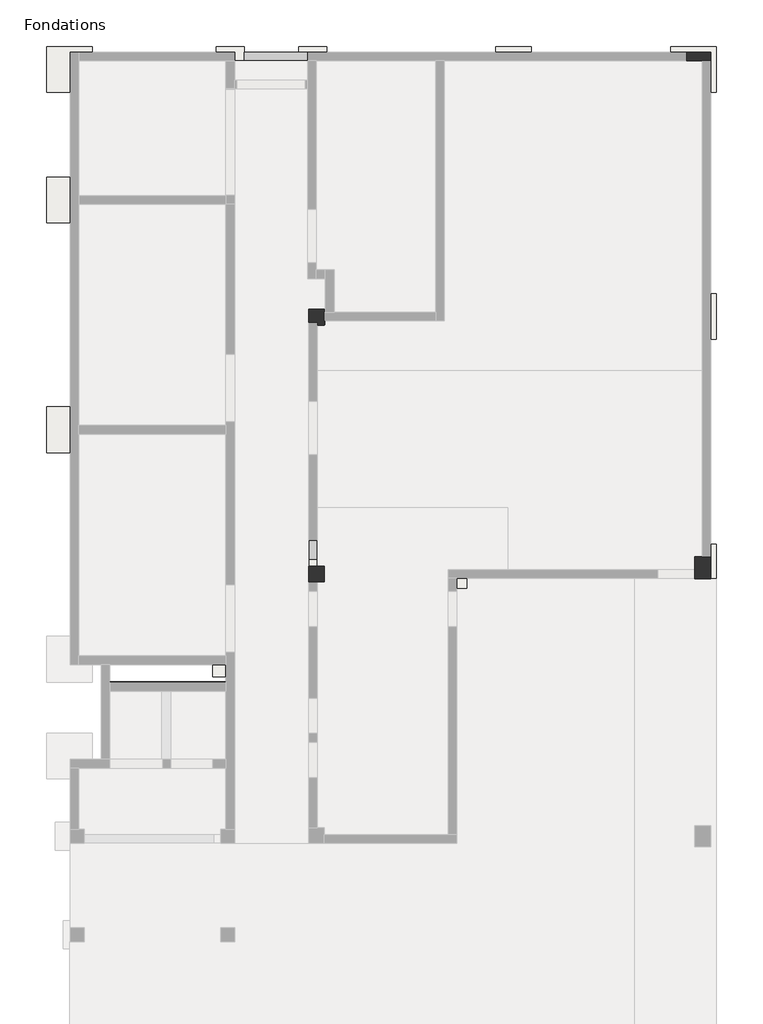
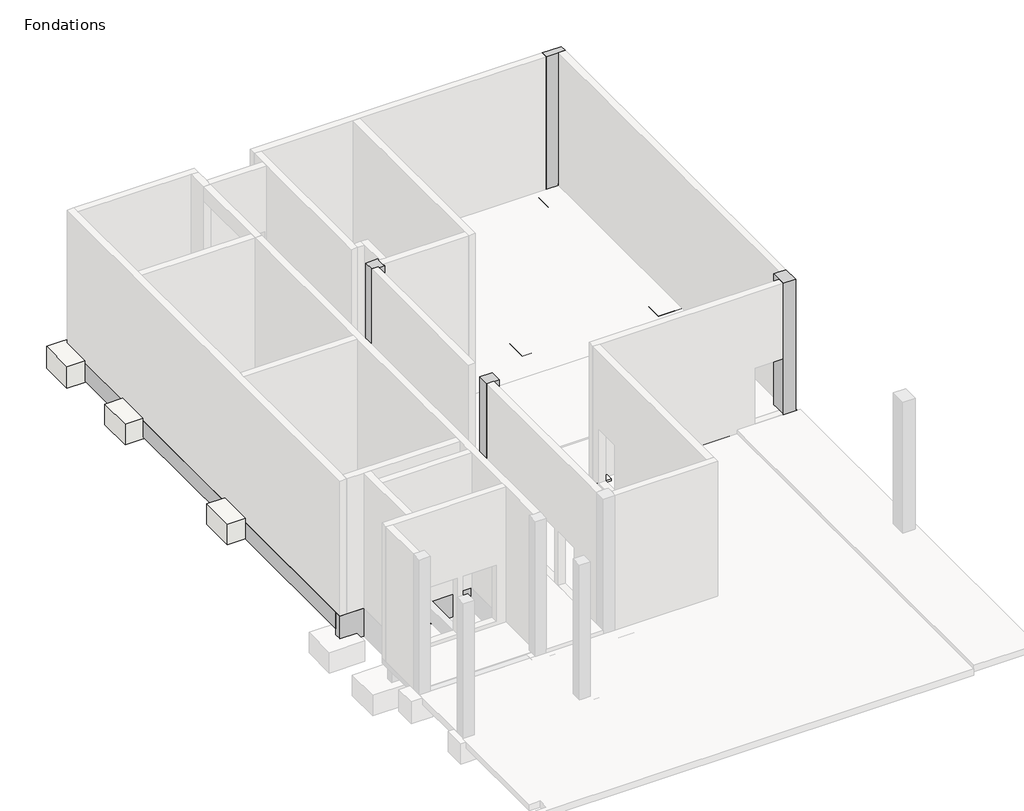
# One storey, part 3 of 3: 25 beams, 17 slabs, 4 columns.
"""IFC4 building model written with IfcOpenShell, lengths in millimetres."""

from ifc_helpers import new_model, si_unit, frame, origin, place, context, project, spatial, polyline, outline, extrude, faceted_brep, element, save

model = new_model("IFC4")

# Units and contexts
model_context = context("Model", 3, world=origin())
ifc_project = project(units=[si_unit("LENGTHUNIT", "METRE", prefix="MILLI")], contexts=[model_context])

# Site, building, storey
site = spatial("IfcSite", under=ifc_project)
building = spatial("IfcBuilding", under=site)
storey = spatial("IfcBuildingStorey", under=building, Name="Fondations", Elevation=-160.0)

# Beams
placement = place(None, origin())
element("IfcBeam", 1, ObjectType="Béton - Poutre rectangulaire : LG 25 x 80 cm", at=placement, inside=storey, context=model_context, shape_type="SweptSolid", body=[
    extrude(outline(polyline([(3757.2957569, -3025.1222782), (3507.2957569, -3025.1222782), (3507.2957569, 3334.8777218), (3757.2957569, 3334.8777218), (3757.2957569, -3025.1222782)])), frame((0.0, 0.0, -960.0), z_axis=(0.0, 0.0, 1.0), x_axis=(1.0, 0.0, 0.0)), (0.0, 0.0, 1.0), 695.0),
])
element("IfcBeam", 2, ObjectType="Béton - Poutre rectangulaire : LG 25 x 80 cm", at=placement, inside=storey, context=model_context, shape_type="Brep", body=[
    faceted_brep([(-3712.7042431, 3384.8777218, -870.0), (-3712.7042431, -3125.1222782, -870.0), (-3712.7042431, -3125.1222782, -270.0), (-3712.7042431, -3125.1222782, -160.0), (-3712.7042431, 3384.8777218, -160.0), (-3712.7042431, 3384.8777218, -270.0), (-3462.7042431, -3125.1222782, -870.0), (-3462.7042431, 3384.8777218, -870.0), (-3462.7042431, 3384.8777218, -405.0), (-3462.7042431, 3384.8777218, -160.0), (-3462.7042431, -3125.1222782, -160.0), (-3462.7042431, -3125.1222782, -405.0)], [[[0, 1, 2, 3, 4, 5]], [[6, 1, 0, 7]], [[6, 7, 8, 9, 10, 11]], [[1, 6, 11, 10, 3, 2]], [[7, 0, 5, 4, 9, 8]], [[4, 3, 10, 9]]]),
])
element("IfcBeam", 3, ObjectType="Béton - Poutre rectangulaire : LG 25 x 84 cm", at=placement, inside=storey, context=model_context, shape_type="SweptSolid", body=[
    extrude(outline(polyline([(-30.0, -9507.7042431), (-870.0, -9507.7042431), (-870.0, -7957.7042431), (-70.0, -7957.7042431), (-70.0, -7707.7042431), (-30.0, -7707.7042431), (-30.0, -9507.7042431)])), frame((0.0, 18374.8777218, 0.0), z_axis=(0.0, 1.0, 0.0), x_axis=(0.0, 0.0, 1.0)), (0.0, 0.0, 1.0), 250.0),
])
element("IfcBeam", 4, ObjectType="Béton - Poutre rectangulaire : LG 30 x 80 cm", at=placement, inside=storey, context=model_context, shape_type="SweptSolid", body=[
    extrude(outline(polyline([(-2002.7042431, 3284.8777218), (-1702.7042431, 3284.8777218), (-1702.7042431, -3275.1222782), (-2002.7042431, -3275.1222782), (-2002.7042431, 3284.8777218)])), frame((0.0, 0.0, -960.0), z_axis=(0.0, 0.0, 1.0), x_axis=(1.0, 0.0, 0.0)), (0.0, 0.0, 1.0), 555.0),
])
element("IfcBeam", 5, ObjectType="Béton - Poutre rectangulaire : LG 30 x 80 cm", at=placement, inside=storey, context=model_context, shape_type="Brep", body=[
    faceted_brep([(-1702.7042431, 4284.8777218, -870.0), (-1702.7042431, 10709.8777218, -870.0), (-1702.7042431, 10709.8777218, -320.0), (-1702.7042431, 9559.8777218, -320.0), (-1702.7042431, 9559.8777218, -250.0), (-1702.7042431, 4284.8777218, -250.0), (-2002.7042431, 4284.8777218, -870.0), (-2002.7042431, 10709.8777218, -870.0), (-2002.7042431, 4284.8777218, -250.0), (-2002.7042431, 5679.8777218, -250.0), (-2002.7042431, 9559.8777218, -250.0), (-2002.7042431, 9559.8777218, -320.0), (-2002.7042431, 10709.8777218, -320.0)], [[[0, 1, 2, 3, 4, 5]], [[0, 6, 7, 1]], [[7, 6, 8, 9, 10, 11, 12]], [[1, 7, 12, 2]], [[6, 0, 5, 8]], [[11, 3, 2, 12]], [[3, 11, 10, 4]], [[5, 4, 10, 9, 8]]]),
])
element("IfcBeam", 6, ObjectType="Béton - Poutre rectangulaire : LG 30 x 80 cm", at=placement, inside=storey, context=model_context, shape_type="SweptSolid", body=[
    extrude(outline(polyline([(-1702.7042431, 11509.8777218), (-2002.7042431, 11509.8777218), (-2002.7042431, 17784.8777218), (-1702.7042431, 17784.8777218), (-1702.7042431, 11509.8777218)])), frame((0.0, 0.0, -870.0), z_axis=(0.0, 0.0, 1.0), x_axis=(1.0, 0.0, 0.0)), (0.0, 0.0, 1.0), 550.0),
])
element("IfcBeam", 7, ObjectType="Béton - Poutre rectangulaire : LG 30 x 80 cm", at=placement, inside=storey, context=model_context, shape_type="Brep", body=[
    faceted_brep([(-6807.7042431, 10984.8777218, -70.0), (-4067.7042431, 10984.8777218, -70.0), (-4067.7042431, 11234.8777218, -70.0), (-6807.7042431, 11234.8777218, -70.0), (-6807.7042431, 10959.8777218, -870.0), (-2252.7042431, 10959.8777218, -870.0), (-2252.7042431, 10959.8777218, -320.0), (-6807.7042431, 10959.8777218, -320.0), (-6807.7042431, 11259.8777218, -870.0), (-2252.7042431, 11259.8777218, -870.0), (-6807.7042431, 11259.8777218, -200.0), (-4067.7042431, 11259.8777218, -200.0), (-4067.7042431, 11259.8777218, -320.0), (-2252.7042431, 11259.8777218, -320.0), (-6807.7042431, 10984.8777218, -320.0), (-6807.7042431, 11234.8777218, -200.0), (-4067.7042431, 10984.8777218, -320.0), (-4067.7042431, 11234.8777218, -200.0)], [[[0, 1, 2, 3]], [[4, 5, 6, 7]], [[4, 8, 9, 5]], [[9, 8, 10, 11, 12, 13]], [[8, 4, 7, 14, 0, 3, 15, 10]], [[5, 9, 13, 6]], [[12, 16, 14, 7, 6, 13]], [[16, 1, 0, 14]], [[1, 16, 12, 11, 17, 2]], [[15, 17, 11, 10]], [[17, 15, 3, 2]]]),
])
element("IfcBeam", 8, ObjectType="Béton - Poutre rectangulaire : LG 30 x 80 cm", at=placement, inside=storey, context=model_context, shape_type="Brep", body=[
    faceted_brep([(2617.2957569, 3909.8777218, -160.0), (-1352.7042431, 3909.8777218, -160.0), (-1352.7042431, 3659.8777218, -160.0), (2617.2957569, 3659.8777218, -160.0), (-1352.7042431, 3634.8777218, -960.0), (2617.2957569, 3634.8777218, -960.0), (2617.2957569, 3634.8777218, -265.0), (1602.2957569, 3634.8777218, -265.0), (1602.2957569, 3634.8777218, -405.0), (-1352.7042431, 3634.8777218, -405.0), (2617.2957569, 3934.8777218, -960.0), (-1352.7042431, 3934.8777218, -960.0), (-1352.7042431, 3934.8777218, -250.0), (2617.2957569, 3934.8777218, -250.0), (2617.2957569, 3909.8777218, -250.0), (2617.2957569, 3659.8777218, -265.0), (-1352.7042431, 3659.8777218, -405.0), (-1352.7042431, 3909.8777218, -250.0), (1602.2957569, 3659.8777218, -405.0), (1602.2957569, 3659.8777218, -265.0)], [[[0, 1, 2, 3]], [[4, 5, 6, 7, 8, 9]], [[10, 5, 4, 11]], [[10, 11, 12, 13]], [[5, 10, 13, 14, 0, 3, 15, 6]], [[11, 4, 9, 16, 2, 1, 17, 12]], [[17, 14, 13, 12]], [[14, 17, 1, 0]], [[18, 16, 9, 8]], [[18, 8, 7, 19]], [[16, 18, 19, 15, 3, 2]], [[15, 19, 7, 6]]]),
])
element("IfcBeam", 9, ObjectType="Béton - Poutre rectangulaire : LG 40 x 80 cm", at=placement, inside=storey, context=model_context, shape_type="SweptSolid", body=[
    extrude(outline(polyline([(-870.0, -7757.7042431), (-870.0, -7357.7042431), (-270.0, -7357.7042431), (-270.0, -7432.7042431), (-160.0, -7432.7042431), (-160.0, -7682.7042431), (-215.0, -7682.7042431), (-215.0, -7757.7042431), (-870.0, -7757.7042431)])), frame((0.0, -3000.1222782, 0.0), z_axis=(0.0, 1.0, 0.0), x_axis=(0.0, 0.0, 1.0)), (0.0, 0.0, 1.0), 6385.0),
])
element("IfcBeam", 10, ObjectType="Béton - Poutre rectangulaire : LG 40 x 80 cm", at=placement, inside=storey, context=model_context, shape_type="Brep", body=[
    faceted_brep([(-7432.7042431, 4749.8777218, -70.0), (-7682.7042431, 4749.8777218, -70.0), (-7682.7042431, 4184.8777218, -70.0), (-7432.7042431, 4184.8777218, -70.0), (-7357.7042431, 4184.8777218, -870.0), (-7357.7042431, 10434.8777218, -870.0), (-7357.7042431, 10434.8777218, -320.0), (-7357.7042431, 9559.8777218, -320.0), (-7357.7042431, 9559.8777218, -250.0), (-7357.7042431, 5679.8777218, -250.0), (-7357.7042431, 5679.8777218, -270.0), (-7357.7042431, 4184.8777218, -270.0), (-7757.7042431, 10434.8777218, -870.0), (-7757.7042431, 4184.8777218, -870.0), (-7757.7042431, 4184.8777218, -215.0), (-7757.7042431, 10434.8777218, -215.0), (-7682.7042431, 10434.8777218, -215.0), (-7682.7042431, 10434.8777218, -160.0), (-7432.7042431, 10434.8777218, -160.0), (-7432.7042431, 10434.8777218, -320.0), (-7432.7042431, 4184.8777218, -270.0), (-7682.7042431, 4184.8777218, -215.0), (-7682.7042431, 4749.8777218, -160.0), (-7432.7042431, 4749.8777218, -160.0), (-7432.7042431, 9559.8777218, -320.0), (-7432.7042431, 9559.8777218, -250.0), (-7432.7042431, 5679.8777218, -270.0), (-7432.7042431, 5679.8777218, -250.0)], [[[0, 1, 2, 3]], [[4, 5, 6, 7, 8, 9, 10, 11]], [[12, 5, 4, 13]], [[12, 13, 14, 15]], [[5, 12, 15, 16, 17, 18, 19, 6]], [[13, 4, 11, 20, 3, 2, 21, 14]], [[22, 23, 18, 17]], [[23, 22, 1, 0]], [[19, 24, 7, 6]], [[7, 24, 25, 8]], [[24, 19, 18, 23, 0, 3, 20, 26, 27, 25]], [[25, 27, 9, 8]], [[10, 26, 20, 11]], [[27, 26, 10, 9]], [[21, 16, 15, 14]], [[16, 21, 2, 1, 22, 17]]]),
])
element("IfcBeam", 11, ObjectType="Béton - Poutre rectangulaire : LG 60 x 80 cm", at=placement, inside=storey, context=model_context, shape_type="SweptSolid", body=[
    extrude(outline(polyline([(-9532.7042431, 14919.8777218), (-10132.7042431, 14919.8777218), (-10132.7042431, 17984.8777218), (-9532.7042431, 17984.8777218), (-9532.7042431, 14919.8777218)])), frame((0.0, 0.0, -870.0), z_axis=(0.0, 0.0, 1.0), x_axis=(1.0, 0.0, 0.0)), (0.0, 0.0, 1.0), 655.0),
])
element("IfcBeam", 12, ObjectType="Béton - Poutre rectangulaire : LG 60 x 80 cm", at=placement, inside=storey, context=model_context, shape_type="SweptSolid", body=[
    extrude(outline(polyline([(-820.0, -10207.7042431), (-820.0, -9607.7042431), (-215.0, -9607.7042431), (-215.0, -9782.7042431), (-160.0, -9782.7042431), (-160.0, -10032.7042431), (-200.0, -10032.7042431), (-200.0, -10207.7042431), (-820.0, -10207.7042431)])), frame((0.0, 8389.8777218, 0.0), z_axis=(0.0, 1.0, 0.0), x_axis=(0.0, 0.0, 1.0)), (0.0, 0.0, 1.0), 5530.0),
])
element("IfcBeam", 13, ObjectType="Béton - Poutre rectangulaire : LG 60 x 80 cm", at=placement, inside=storey, context=model_context, shape_type="Brep", body=[
    faceted_brep([(-7257.7042431, 17984.8777218, -820.0), (-7857.7042431, 17984.8777218, -820.0), (-7857.7042431, 17984.8777218, -215.0), (-7707.7042431, 17984.8777218, -215.0), (-7707.7042431, 17984.8777218, -160.0), (-7457.7042431, 17984.8777218, -160.0), (-7457.7042431, 17984.8777218, -200.0), (-7257.7042431, 17984.8777218, -200.0), (-7857.7042431, 11734.8777218, -820.0), (-7257.7042431, 11734.8777218, -820.0), (-7257.7042431, 11734.8777218, -215.0), (-7857.7042431, 11734.8777218, -215.0), (-7257.7042431, 12434.8777218, -200.0), (-7257.7042431, 12434.8777218, -160.0), (-7257.7042431, 12184.8777218, -160.0), (-7257.7042431, 12184.8777218, -215.0), (-7457.7042431, 12434.8777218, -160.0), (-7707.7042431, 12184.8777218, -160.0), (-7457.7042431, 12184.8777218, -160.0), (-7457.7042431, 12434.8777218, -200.0), (-7707.7042431, 12184.8777218, -215.0)], [[[0, 1, 2, 3, 4, 5, 6, 7]], [[8, 9, 10, 11]], [[9, 0, 7, 12, 13, 14, 15, 10]], [[1, 0, 9, 8]], [[1, 8, 11, 2]], [[14, 13, 16, 5, 4, 17, 18]], [[6, 19, 12, 7]], [[19, 16, 13, 12]], [[16, 19, 6, 5]], [[15, 20, 3, 2, 11, 10]], [[20, 17, 4, 3]], [[17, 20, 15, 14, 18]]]),
])
element("IfcBeam", 14, ObjectType="Béton - Poutre rectangulaire : LG 60 x 80 cm", at=placement, inside=storey, context=model_context, shape_type="Brep", body=[
    faceted_brep([(-10207.7042431, 7389.8777218, -820.0), (-10207.7042431, 1454.8777218, -820.0), (-10207.7042431, 1454.8777218, -200.0), (-10207.7042431, 7389.8777218, -200.0), (-9607.7042431, 7389.8777218, -820.0), (-9607.7042431, 1329.8777218, -820.0), (-9782.7042431, 1329.8777218, -820.0), (-9782.7042431, 1454.8777218, -820.0), (-10032.7042431, 1454.8777218, -820.0), (-9607.7042431, 7389.8777218, -215.0), (-9607.7042431, 1329.8777218, -215.0), (-10032.7042431, 7389.8777218, -200.0), (-10032.7042431, 7389.8777218, -160.0), (-9782.7042431, 7389.8777218, -160.0), (-9782.7042431, 7389.8777218, -215.0), (-9782.7042431, 1454.8777218, -160.0), (-10032.7042431, 1454.8777218, -160.0), (-10032.7042431, 1454.8777218, -200.0), (-9782.7042431, 1454.8777218, -215.0), (-9782.7042431, 1329.8777218, -215.0)], [[[0, 1, 2, 3]], [[0, 4, 5, 6, 7, 8, 1]], [[5, 4, 9, 10]], [[4, 0, 3, 11, 12, 13, 14, 9]], [[15, 16, 17, 2, 1, 8, 7, 18]], [[7, 6, 19, 18]], [[6, 5, 10, 19]], [[13, 12, 16, 15]], [[17, 11, 3, 2]], [[11, 17, 16, 12]], [[14, 18, 19, 10, 9]], [[18, 14, 13, 15]]]),
])
element("IfcBeam", 15, ObjectType="Béton - Poutre rectangulaire : TPV 20 x 125 cm", at=placement, inside=storey, context=model_context, shape_type="Brep", body=[
    faceted_brep([(-10032.7042431, 714.8777218, 0.0), (-13332.7042431, 714.8777218, 0.0), (-13332.7042431, 704.8777218, 0.0), (-10032.7042431, 704.8777218, 0.0), (-13332.7042431, 514.8777218, -1250.0), (-10032.7042431, 514.8777218, -1250.0), (-10032.7042431, 514.8777218, -160.0), (-11607.7042431, 514.8777218, -160.0), (-11857.7042431, 514.8777218, -160.0), (-13332.7042431, 514.8777218, -160.0), (-13332.7042431, 714.8777218, -1250.0), (-10032.7042431, 714.8777218, -1250.0), (-10032.7042431, 704.8777218, -160.0), (-13332.7042431, 704.8777218, -160.0)], [[[0, 1, 2, 3]], [[4, 5, 6, 7, 8, 9]], [[4, 10, 11, 5]], [[10, 1, 0, 11]], [[5, 11, 0, 3, 12, 6]], [[10, 4, 9, 13, 2, 1]], [[13, 12, 3, 2]], [[12, 13, 9, 8, 7, 6]]]),
])
element("IfcBeam", 16, ObjectType="Béton - Poutre rectangulaire : TPV 20 x 80 cm", at=placement, inside=storey, context=model_context, shape_type="SweptSolid", body=[
    extrude(outline(polyline([(-14462.7042431, 17484.8777218), (-14262.7042431, 17484.8777218), (-14262.7042431, 15069.8777218), (-14462.7042431, 15069.8777218), (-14462.7042431, 17484.8777218)])), frame((0.0, 0.0, -870.0), z_axis=(0.0, 0.0, 1.0), x_axis=(1.0, 0.0, 0.0)), (0.0, 0.0, 1.0), 710.0),
])
element("IfcBeam", 17, ObjectType="Béton - Poutre rectangulaire : TPV 25 x 125 cm", at=placement, inside=storey, context=model_context, shape_type="Brep", body=[
    faceted_brep([(-14462.7042431, 1204.8777218, -1050.0), (-13832.7042431, 1204.8777218, -1050.0), (-13832.7042431, 1204.8777218, -1250.0), (-13582.7042431, 1204.8777218, -1250.0), (-13332.7042431, 1204.8777218, -1250.0), (-10407.7042431, 1204.8777218, -1250.0), (-10407.7042431, 1204.8777218, -1050.0), (-10032.7042431, 1204.8777218, -1050.0), (-9782.7042431, 1204.8777218, -1050.0), (-9782.7042431, 1204.8777218, -160.0), (-10032.7042431, 1204.8777218, -160.0), (-13332.7042431, 1204.8777218, -160.0), (-13582.7042431, 1204.8777218, -160.0), (-14212.7042431, 1204.8777218, -160.0), (-14462.7042431, 1204.8777218, -160.0), (-10407.7042431, 1454.8777218, -1250.0), (-13832.7042431, 1454.8777218, -1250.0), (-13832.7042431, 1454.8777218, -1050.0), (-14462.7042431, 1454.8777218, -1050.0), (-14462.7042431, 1454.8777218, -800.0), (-14462.7042431, 1454.8777218, -160.0), (-14212.7042431, 1454.8777218, -160.0), (-10032.7042431, 1454.8777218, -160.0), (-9782.7042431, 1454.8777218, -160.0), (-9782.7042431, 1454.8777218, -215.0), (-9782.7042431, 1454.8777218, -820.0), (-9782.7042431, 1454.8777218, -1050.0), (-10407.7042431, 1454.8777218, -1050.0)], [[[0, 1, 2, 3, 4, 5, 6, 7, 8, 9, 10, 11, 12, 13, 14]], [[15, 5, 4, 3, 2, 16]], [[17, 18, 19, 20, 21, 22, 23, 24, 25, 26, 27, 15, 16]], [[1, 0, 18, 17]], [[2, 1, 17, 16]], [[8, 7, 6, 27, 26]], [[6, 5, 15, 27]], [[18, 0, 14, 20, 19]], [[9, 23, 22, 21, 20, 14, 13, 12, 11, 10]], [[8, 26, 25, 24, 23, 9]]]),
])
element("IfcBeam", 18, ObjectType="Béton - Poutre rectangulaire : TPV 25 x 20 cm", at=placement, inside=storey, context=model_context, shape_type="SweptSolid", body=[
    extrude(outline(polyline([(-10407.9824135, 8014.8777218), (-10407.9824135, 7764.8777218), (-13827.9824135, 7764.8777218), (-13827.9824135, 8014.8777218), (-10407.9824135, 8014.8777218)])), frame((0.0, 0.0, -150.0), z_axis=(0.0, 0.0, 1.0), x_axis=(1.0, 0.0, 0.0)), (0.0, 0.0, 1.0), 150.0),
])
element("IfcBeam", 19, ObjectType="Béton - Poutre rectangulaire : TPV 25 x 80 cm", at=placement, inside=storey, context=model_context, shape_type="SweptSolid", body=[
    extrude(outline(polyline([(-1352.7042431, 18374.8777218), (-1352.7042431, 18624.8777218), (2617.2957569, 18624.8777218), (2617.2957569, 18374.8777218), (-1352.7042431, 18374.8777218)])), frame((0.0, 0.0, -870.0), z_axis=(0.0, 0.0, 1.0), x_axis=(1.0, 0.0, 0.0)), (0.0, 0.0, 1.0), 710.0),
    extrude(outline(polyline([(-3942.7042431, 18374.8777218), (-3942.7042431, 18624.8777218), (-2352.7042431, 18624.8777218), (-2352.7042431, 18374.8777218), (-3942.7042431, 18374.8777218)])), frame((0.0, 0.0, -870.0), z_axis=(0.0, 0.0, 1.0), x_axis=(1.0, 0.0, 0.0)), (0.0, 0.0, 1.0), 710.0),
])
element("IfcBeam", 20, ObjectType="Béton - Poutre rectangulaire : TPV 25 x 80 cm", at=placement, inside=storey, context=model_context, shape_type="SweptSolid", body=[
    extrude(outline(polyline([(-14462.7042431, 13769.8777218), (-14212.7042431, 13769.8777218), (-14212.7042431, 8539.8777218), (-14462.7042431, 8539.8777218), (-14462.7042431, 13769.8777218)])), frame((0.0, 0.0, -800.0), z_axis=(0.0, 0.0, 1.0), x_axis=(1.0, 0.0, 0.0)), (0.0, 0.0, 1.0), 640.0),
])
element("IfcBeam", 21, ObjectType="Béton - Poutre rectangulaire : TPV 25 x 80 cm", at=placement, inside=storey, context=model_context, shape_type="Brep", body=[
    faceted_brep([(-14462.7042431, 7239.8777218, -160.0), (-14462.7042431, 7239.8777218, -800.0), (-14462.7042431, 1454.8777218, -800.0), (-14462.7042431, 1454.8777218, -160.0), (-14212.7042431, 7239.8777218, -800.0), (-14212.7042431, 1454.8777218, -800.0), (-14212.7042431, 7239.8777218, -160.0), (-14212.7042431, 1454.8777218, -160.0), (-14212.7042431, 1454.8777218, -200.0)], [[[0, 1, 2, 3]], [[1, 4, 5, 2]], [[4, 6, 7, 8, 5]], [[4, 1, 0, 6]], [[6, 0, 3, 7]], [[3, 2, 5, 8, 7]]]),
])
element("IfcBeam", 22, ObjectType="Béton - Poutre rectangulaire : TPV 25 x 87 cm", at=placement, inside=storey, context=model_context, shape_type="SweptSolid", body=[
    extrude(outline(polyline([(3507.2957569, 18499.8777218), (3757.2957569, 18499.8777218), (3757.2957569, 18374.8777218), (3507.2957569, 18374.8777218), (3507.2957569, 18499.8777218)])), frame((0.0, 0.0, -70.0), z_axis=(0.0, 0.0, 1.0), x_axis=(1.0, 0.0, 0.0)), (0.0, 0.0, 1.0), 70.0),
    extrude(outline(polyline([(3757.2957569, 11759.8777218), (3507.2957569, 11759.8777218), (3507.2957569, 17484.8777218), (3757.2957569, 17484.8777218), (3757.2957569, 11759.8777218)])), frame((0.0, 0.0, -870.0), z_axis=(0.0, 0.0, 1.0), x_axis=(1.0, 0.0, 0.0)), (0.0, 0.0, 1.0), 710.0),
    extrude(outline(polyline([(3507.2957569, 10459.8777218), (3757.2957569, 10459.8777218), (3757.2957569, 4634.8777218), (3507.2957569, 4634.8777218), (3507.2957569, 10459.8777218)])), frame((0.0, 0.0, -870.0), z_axis=(0.0, 0.0, 1.0), x_axis=(1.0, 0.0, 0.0)), (0.0, 0.0, 1.0), 710.0),
])
element("IfcBeam", 23, ObjectType="Béton - Poutre rectangulaire : TPV 25 x 87 cm", at=placement, inside=storey, context=model_context, shape_type="SweptSolid", body=[
    extrude(outline(polyline([(-7157.7042431, 18374.8777218), (-7157.7042431, 18624.8777218), (-3942.7042431, 18624.8777218), (-3942.7042431, 18374.8777218), (-7157.7042431, 18374.8777218)])), frame((0.0, 0.0, -870.0), z_axis=(0.0, 0.0, 1.0), x_axis=(1.0, 0.0, 0.0)), (0.0, 0.0, 1.0), 710.0),
])
element("IfcBeam", 24, ObjectType="Béton - Poutre rectangulaire : TPV 25 x 87 cm", at=placement, inside=storey, context=model_context, shape_type="SweptSolid", body=[
    extrude(outline(polyline([(-13832.7042431, 18374.8777218), (-13832.7042431, 18624.8777218), (-10307.7042431, 18624.8777218), (-10307.7042431, 18374.8777218), (-13832.7042431, 18374.8777218)])), frame((0.0, 0.0, -940.0), z_axis=(0.0, 0.0, 1.0), x_axis=(1.0, 0.0, 0.0)), (0.0, 0.0, 1.0), 780.0),
])
element("IfcBeam", 25, ObjectType="Béton - Poutre rectangulaire : TPV 25 x 87 cm", at=placement, inside=storey, context=model_context, shape_type="SweptSolid", body=[
    extrude(outline(polyline([(-13832.7042431, 14294.8777218), (-13832.7042431, 14544.8777218), (-10407.7042431, 14544.8777218), (-10407.7042431, 14294.8777218), (-13832.7042431, 14294.8777218)])), frame((0.0, 0.0, -870.0), z_axis=(0.0, 0.0, 1.0), x_axis=(1.0, 0.0, 0.0)), (0.0, 0.0, 1.0), 780.0),
])

# Columns
element("IfcColumn", 26, ObjectType="Béton - Rectangulaire - Poteau : 45 x 45 cm", at=placement, inside=storey, context=model_context, shape_type="Brep", body=[
    faceted_brep([(-7232.7042431, 11309.8777218, 5105.0), (-7682.7042431, 11309.8777218, 5105.0), (-7682.7042431, 10929.8777218, 5105.0), (-7432.7042431, 10929.8777218, 5105.0), (-7432.7042431, 10859.8777218, 5105.0), (-7232.7042431, 10859.8777218, 5105.0), (-7232.7042431, 10984.8777218, 5105.0), (-7232.7042431, 11234.8777218, 5105.0), (-7682.7042431, 11309.8777218, -70.0), (-7232.7042431, 11309.8777218, -70.0), (-7232.7042431, 11234.8777218, -70.0), (-7232.7042431, 10984.8777218, -70.0), (-7232.7042431, 10859.8777218, -70.0), (-7432.7042431, 10859.8777218, -70.0), (-7432.7042431, 10929.8777218, -70.0), (-7682.7042431, 10929.8777218, -70.0), (-7232.7042431, 11309.8777218, -15.0), (-7682.7042431, 11309.8777218, -15.0), (-7682.7042431, 10929.8777218, -15.0)], [[[0, 1, 2, 3, 4, 5, 6, 7]], [[8, 9, 10, 11, 12, 13, 14, 15]], [[1, 0, 16, 9, 8, 17]], [[2, 1, 17, 8, 15, 18]], [[12, 5, 4, 13]], [[0, 7, 6, 5, 12, 11, 10, 9, 16]], [[3, 14, 13, 4]], [[14, 3, 2, 18, 15]]]),
])
element("IfcColumn", 27, ObjectType="Béton - Rectangulaire - Poteau : 45 x 45 cm", at=placement, inside=storey, context=model_context, shape_type="Brep", body=[
    faceted_brep([(-7232.7042431, 4009.8777218, 5105.0), (-7682.7042431, 4009.8777218, 5105.0), (-7682.7042431, 3559.8777218, 5105.0), (-7232.7042431, 3559.8777218, 5105.0), (-7232.7042431, 4009.8777218, -70.0), (-7232.7042431, 3559.8777218, -70.0), (-7682.7042431, 3559.8777218, -70.0), (-7682.7042431, 4009.8777218, -70.0), (-7682.7042431, 4009.8777218, -15.0), (-7682.7042431, 3559.8777218, -15.0)], [[[0, 1, 2, 3]], [[4, 5, 6, 7]], [[1, 0, 4, 7, 8]], [[2, 1, 8, 7, 6, 9]], [[3, 2, 9, 6, 5]], [[0, 3, 5, 4]]]),
])
element("IfcColumn", 28, ObjectType="Béton - Rectangulaire - Poteau : 62,5 x 45 cm", at=placement, inside=storey, context=model_context, shape_type="Brep", body=[
    faceted_brep([(3757.2957569, 4274.8777218, 5105.0), (3507.2957569, 4274.8777218, 5105.0), (3307.2957569, 4274.8777218, 5105.0), (3307.2957569, 3909.8777218, 5105.0), (3307.2957569, 3659.8777218, 5105.0), (3307.2957569, 3649.8777218, 5105.0), (3757.2957569, 3649.8777218, 5105.0), (3757.2957569, 4274.8777218, -160.0), (3757.2957569, 3649.8777218, -160.0), (3307.2957569, 3649.8777218, -160.0), (3307.2957569, 3659.8777218, -160.0), (3307.2957569, 3909.8777218, -160.0), (3307.2957569, 4274.8777218, -160.0), (3507.2957569, 4274.8777218, -160.0), (3307.2957569, 4274.8777218, 0.0), (3307.2957569, 3649.8777218, -15.0)], [[[0, 1, 2, 3, 4, 5, 6]], [[7, 8, 9, 10, 11, 12, 13]], [[2, 1, 0, 7, 13, 12, 14]], [[5, 4, 3, 2, 14, 12, 11, 10, 9, 15]], [[6, 5, 15, 9, 8]], [[0, 6, 8, 7]]]),
])
element("IfcColumn", 29, ObjectType="Béton - Rectangulaire - Poteau : 70 x 25 cm", at=placement, inside=storey, context=model_context, shape_type="Brep", body=[
    faceted_brep([(3757.2957569, 18624.8777218, 5105.0), (3057.2957569, 18624.8777218, 5105.0), (3057.2957569, 18374.8777218, 5105.0), (3507.2957569, 18374.8777218, 5105.0), (3757.2957569, 18374.8777218, 5105.0), (3757.2957569, 18624.8777218, -70.0), (3757.2957569, 18374.8777218, -70.0), (3057.2957569, 18374.8777218, -70.0), (3057.2957569, 18624.8777218, -70.0)], [[[0, 1, 2, 3, 4]], [[5, 6, 7, 8]], [[1, 0, 5, 8]], [[2, 1, 8, 7]], [[4, 3, 2, 7, 6]], [[0, 4, 6, 5]]]),
])

# Slabs
element("IfcSlab", 30, ObjectType="M_Base-Rectangulaire : 100 x 100 x 80 cm", at=placement, inside=storey, context=model_context, shape_type="Brep", body=[
    faceted_brep([(-9407.7042431, 1859.8777218, -1050.0), (-10407.7042431, 1859.8777218, -1050.0), (-10407.7042431, 1454.8777218, -1050.0), (-10407.7042431, 1204.8777218, -1050.0), (-10407.7042431, 859.8777218, -1050.0), (-10032.7042431, 859.8777218, -1050.0), (-9782.7042431, 859.8777218, -1050.0), (-9407.7042431, 859.8777218, -1050.0), (-9407.7042431, 1859.8777218, -1850.0), (-9407.7042431, 859.8777218, -1850.0), (-10407.7042431, 859.8777218, -1850.0), (-10407.7042431, 1859.8777218, -1850.0)], [[[0, 1, 2, 3, 4, 5, 6, 7]], [[8, 9, 10, 11]], [[1, 0, 8, 11]], [[4, 3, 2, 1, 11, 10]], [[7, 6, 5, 4, 10, 9]], [[0, 7, 9, 8]]]),
])
element("IfcSlab", 31, ObjectType="M_Base-Rectangulaire : 100 x 100 x 80 cm", at=placement, inside=storey, context=model_context, shape_type="Brep", body=[
    faceted_brep([(-9407.7042431, 8389.8777218, -20.0), (-10407.7042431, 8389.8777218, -20.0), (-10407.7042431, 7389.8777218, -20.0), (-9407.7042431, 7389.8777218, -20.0), (-9407.7042431, 8389.8777218, -820.0), (-9407.7042431, 7389.8777218, -820.0), (-9607.7042431, 7389.8777218, -820.0), (-10207.7042431, 7389.8777218, -820.0), (-10407.7042431, 7389.8777218, -820.0), (-10407.7042431, 8389.8777218, -820.0), (-10207.7042431, 8389.8777218, -820.0), (-9607.7042431, 8389.8777218, -820.0)], [[[0, 1, 2, 3]], [[4, 5, 6, 7, 8, 9, 10, 11]], [[1, 0, 4, 11, 10, 9]], [[2, 1, 9, 8]], [[3, 2, 8, 7, 6, 5]], [[0, 3, 5, 4]]]),
])
element("IfcSlab", 32, ObjectType="M_Base-Rectangulaire : 100 x 100 x 80 cm", at=placement, inside=storey, context=model_context, shape_type="Brep", body=[
    faceted_brep([(-9407.7042431, 14919.8777218, -70.0), (-10407.7042431, 14919.8777218, -70.0), (-10407.7042431, 13919.8777218, -70.0), (-9407.7042431, 13919.8777218, -70.0), (-9407.7042431, 14919.8777218, -870.0), (-9407.7042431, 13919.8777218, -870.0), (-10407.7042431, 13919.8777218, -870.0), (-10407.7042431, 14294.8777218, -870.0), (-10407.7042431, 14544.8777218, -870.0), (-10407.7042431, 14919.8777218, -870.0), (-10132.7042431, 14919.8777218, -870.0), (-9532.7042431, 14919.8777218, -870.0)], [[[0, 1, 2, 3]], [[4, 5, 6, 7, 8, 9, 10, 11]], [[1, 0, 4, 11, 10, 9]], [[2, 1, 9, 8, 7, 6]], [[3, 2, 6, 5]], [[0, 3, 5, 4]]]),
])
element("IfcSlab", 33, ObjectType="M_Base-Rectangulaire : 100 x 100 x 80 cm", at=placement, inside=storey, context=model_context, shape_type="Brep", body=[
    faceted_brep([(-1352.7042431, 18784.8777218, -70.0), (-2352.7042431, 18784.8777218, -70.0), (-2352.7042431, 17784.8777218, -70.0), (-1352.7042431, 17784.8777218, -70.0), (-1352.7042431, 18784.8777218, -870.0), (-1352.7042431, 18624.8777218, -870.0), (-1352.7042431, 18374.8777218, -870.0), (-1352.7042431, 17784.8777218, -870.0), (-1702.7042431, 17784.8777218, -870.0), (-2002.7042431, 17784.8777218, -870.0), (-2352.7042431, 17784.8777218, -870.0), (-2352.7042431, 18374.8777218, -870.0), (-2352.7042431, 18624.8777218, -870.0), (-2352.7042431, 18784.8777218, -870.0)], [[[0, 1, 2, 3]], [[4, 5, 6, 7, 8, 9, 10, 11, 12, 13]], [[1, 0, 4, 13]], [[2, 1, 13, 12, 11, 10]], [[3, 2, 10, 9, 8, 7]], [[0, 3, 7, 6, 5, 4]]]),
])
element("IfcSlab", 34, ObjectType="M_Base-Rectangulaire : 100 x 100 x 80 cm", at=placement, inside=storey, context=model_context, shape_type="Brep", body=[
    faceted_brep([(-1352.7042431, 4284.8777218, -160.0), (-2352.7042431, 4284.8777218, -160.0), (-2352.7042431, 3284.8777218, -160.0), (-1352.7042431, 3284.8777218, -160.0), (-1352.7042431, 3659.8777218, -160.0), (-1352.7042431, 3909.8777218, -160.0), (-1352.7042431, 4284.8777218, -960.0), (-1352.7042431, 3934.8777218, -960.0), (-1352.7042431, 3634.8777218, -960.0), (-1352.7042431, 3284.8777218, -960.0), (-1702.7042431, 3284.8777218, -960.0), (-2002.7042431, 3284.8777218, -960.0), (-2352.7042431, 3284.8777218, -960.0), (-2352.7042431, 4284.8777218, -960.0)], [[[0, 1, 2, 3, 4, 5]], [[6, 7, 8, 9, 10, 11, 12, 13]], [[1, 0, 6, 13]], [[2, 1, 13, 12]], [[3, 2, 12, 11, 10, 9]], [[0, 5, 4, 3, 9, 8, 7, 6]]]),
])
element("IfcSlab", 35, ObjectType="M_Base-Rectangulaire : 130 x 130 x 80 cm", at=placement, inside=storey, context=model_context, shape_type="Brep", body=[
    faceted_brep([(3917.2957569, 4634.8777218, -160.0), (3757.2957569, 4634.8777218, -160.0), (3507.2957569, 4634.8777218, -160.0), (2617.2957569, 4634.8777218, -160.0), (2617.2957569, 3909.8777218, -160.0), (2617.2957569, 3659.8777218, -160.0), (2617.2957569, 3334.8777218, -160.0), (3917.2957569, 3334.8777218, -160.0), (3917.2957569, 4634.8777218, -960.0), (3917.2957569, 3334.8777218, -960.0), (3757.2957569, 3334.8777218, -960.0), (3507.2957569, 3334.8777218, -960.0), (2617.2957569, 3334.8777218, -960.0), (2617.2957569, 3634.8777218, -960.0), (2617.2957569, 3934.8777218, -960.0), (2617.2957569, 4634.8777218, -960.0)], [[[0, 1, 2, 3, 4, 5, 6, 7]], [[8, 9, 10, 11, 12, 13, 14, 15]], [[3, 2, 1, 0, 8, 15]], [[6, 5, 4, 3, 15, 14, 13, 12]], [[7, 6, 12, 11, 10, 9]], [[0, 7, 9, 8]]]),
])
element("IfcSlab", 36, ObjectType="M_Base-Rectangulaire : 130 x 130 x 80 cm", at=placement, inside=storey, context=model_context, shape_type="Brep", body=[
    faceted_brep([(3917.2957569, 11759.8777218, -70.0), (2617.2957569, 11759.8777218, -70.0), (2617.2957569, 10459.8777218, -70.0), (3917.2957569, 10459.8777218, -70.0), (3917.2957569, 11759.8777218, -870.0), (3917.2957569, 10459.8777218, -870.0), (3757.2957569, 10459.8777218, -870.0), (3507.2957569, 10459.8777218, -870.0), (2617.2957569, 10459.8777218, -870.0), (2617.2957569, 11759.8777218, -870.0), (3507.2957569, 11759.8777218, -870.0), (3757.2957569, 11759.8777218, -870.0)], [[[0, 1, 2, 3]], [[4, 5, 6, 7, 8, 9, 10, 11]], [[1, 0, 4, 11, 10, 9]], [[2, 1, 9, 8]], [[3, 2, 8, 7, 6, 5]], [[0, 3, 5, 4]]]),
])
element("IfcSlab", 37, ObjectType="M_Base-Rectangulaire : 130 x 130 x 80 cm", at=placement, inside=storey, context=model_context, shape_type="Brep", body=[
    faceted_brep([(-13832.7042431, 15069.8777218, -70.0), (-15132.7042431, 15069.8777218, -70.0), (-15132.7042431, 13769.8777218, -70.0), (-13832.7042431, 13769.8777218, -70.0), (-13832.7042431, 15069.8777218, -870.0), (-13832.7042431, 14544.8777218, -870.0), (-13832.7042431, 14294.8777218, -870.0), (-13832.7042431, 13769.8777218, -870.0), (-15132.7042431, 13769.8777218, -870.0), (-15132.7042431, 15069.8777218, -870.0), (-14462.7042431, 15069.8777218, -870.0), (-14262.7042431, 15069.8777218, -870.0)], [[[0, 1, 2, 3]], [[4, 5, 6, 7, 8, 9, 10, 11]], [[1, 0, 4, 11, 10, 9]], [[2, 1, 9, 8]], [[3, 2, 8, 7]], [[0, 3, 7, 6, 5, 4]]]),
])
element("IfcSlab", 38, ObjectType="M_Base-Rectangulaire : 130 x 130 x 80 cm", at=placement, inside=storey, context=model_context, shape_type="Brep", body=[
    faceted_brep([(-13832.7042431, 8539.8777218, 0.0), (-15132.7042431, 8539.8777218, 0.0), (-15132.7042431, 7239.8777218, 0.0), (-13832.7042431, 7239.8777218, 0.0), (-13832.7042431, 8539.8777218, -800.0), (-13832.7042431, 7239.8777218, -800.0), (-14212.7042431, 7239.8777218, -800.0), (-14462.7042431, 7239.8777218, -800.0), (-15132.7042431, 7239.8777218, -800.0), (-15132.7042431, 8539.8777218, -800.0), (-14462.7042431, 8539.8777218, -800.0), (-14212.7042431, 8539.8777218, -800.0)], [[[0, 1, 2, 3]], [[4, 5, 6, 7, 8, 9, 10, 11]], [[1, 0, 4, 11, 10, 9]], [[2, 1, 9, 8]], [[3, 2, 8, 7, 6, 5]], [[0, 3, 5, 4]]]),
])
element("IfcSlab", 39, ObjectType="M_Base-Rectangulaire : 130 x 130 x 80 cm", at=placement, inside=storey, context=model_context, shape_type="Brep", body=[
    faceted_brep([(-6807.7042431, 11734.8777218, -70.0), (-8107.7042431, 11734.8777218, -70.0), (-8107.7042431, 10434.8777218, -70.0), (-6807.7042431, 10434.8777218, -70.0), (-6807.7042431, 10984.8777218, -70.0), (-6807.7042431, 11234.8777218, -70.0), (-6807.7042431, 11734.8777218, -870.0), (-6807.7042431, 11259.8777218, -870.0), (-6807.7042431, 10959.8777218, -870.0), (-6807.7042431, 10434.8777218, -870.0), (-7357.7042431, 10434.8777218, -870.0), (-7757.7042431, 10434.8777218, -870.0), (-8107.7042431, 10434.8777218, -870.0), (-8107.7042431, 11734.8777218, -870.0)], [[[0, 1, 2, 3, 4, 5]], [[6, 7, 8, 9, 10, 11, 12, 13]], [[1, 0, 6, 13]], [[2, 1, 13, 12]], [[3, 2, 12, 11, 10, 9]], [[0, 5, 4, 3, 9, 8, 7, 6]]]),
])
element("IfcSlab", 40, ObjectType="M_Base-Rectangulaire : 130 x 130 x 85 cm", at=placement, inside=storey, context=model_context, shape_type="SweptSolid", body=[
    extrude(outline(polyline([(3917.2957569, 18784.8777218), (3917.2957569, 17484.8777218), (2617.2957569, 17484.8777218), (2617.2957569, 18784.8777218), (3917.2957569, 18784.8777218)])), frame((0.0, 0.0, -920.0), z_axis=(0.0, 0.0, 1.0), x_axis=(1.0, 0.0, 0.0)), (0.0, 0.0, 1.0), 850.0),
])
element("IfcSlab", 41, ObjectType="M_Base-Rectangulaire : 130 x 130 x 85 cm", at=placement, inside=storey, context=model_context, shape_type="SweptSolid", body=[
    extrude(outline(polyline([(-13832.7042431, 18784.8777218), (-13832.7042431, 17484.8777218), (-15132.7042431, 17484.8777218), (-15132.7042431, 18784.8777218), (-13832.7042431, 18784.8777218)])), frame((0.0, 0.0, -920.0), z_axis=(0.0, 0.0, 1.0), x_axis=(1.0, 0.0, 0.0)), (0.0, 0.0, 1.0), 850.0),
])
element("IfcSlab", 42, ObjectType="M_Base-Rectangulaire : 80 x 80 x 80 cm", at=placement, inside=storey, context=model_context, shape_type="Brep", body=[
    faceted_brep([(-1452.7042431, 11509.8777218, -70.0), (-2252.7042431, 11509.8777218, -70.0), (-2252.7042431, 10709.8777218, -70.0), (-1452.7042431, 10709.8777218, -70.0), (-1452.7042431, 11509.8777218, -870.0), (-1452.7042431, 10709.8777218, -870.0), (-1702.7042431, 10709.8777218, -870.0), (-2002.7042431, 10709.8777218, -870.0), (-2252.7042431, 10709.8777218, -870.0), (-2252.7042431, 10959.8777218, -870.0), (-2252.7042431, 11259.8777218, -870.0), (-2252.7042431, 11509.8777218, -870.0), (-2002.7042431, 11509.8777218, -870.0), (-1702.7042431, 11509.8777218, -870.0)], [[[0, 1, 2, 3]], [[4, 5, 6, 7, 8, 9, 10, 11, 12, 13]], [[1, 0, 4, 13, 12, 11]], [[2, 1, 11, 10, 9, 8]], [[3, 2, 8, 7, 6, 5]], [[0, 3, 5, 4]]]),
])
element("IfcSlab", 43, ObjectType="M_Base-Rectangulaire : 80 x 80 x 80 cm", at=placement, inside=storey, context=model_context, shape_type="Brep", body=[
    faceted_brep([(-7157.7042431, 18784.8777218, -70.0), (-7957.7042431, 18784.8777218, -70.0), (-7957.7042431, 18624.8777218, -70.0), (-7957.7042431, 18374.8777218, -70.0), (-7957.7042431, 17984.8777218, -70.0), (-7157.7042431, 17984.8777218, -70.0), (-7157.7042431, 18784.8777218, -870.0), (-7157.7042431, 18624.8777218, -870.0), (-7157.7042431, 18374.8777218, -870.0), (-7157.7042431, 17984.8777218, -870.0), (-7957.7042431, 17984.8777218, -870.0), (-7957.7042431, 18374.8777218, -870.0), (-7957.7042431, 18624.8777218, -870.0), (-7957.7042431, 18784.8777218, -870.0)], [[[0, 1, 2, 3, 4, 5]], [[6, 7, 8, 9, 10, 11, 12, 13]], [[1, 0, 6, 13]], [[4, 3, 2, 1, 13, 12, 11, 10]], [[5, 4, 10, 9]], [[0, 5, 9, 8, 7, 6]]]),
])
element("IfcSlab", 44, ObjectType="M_Base-Rectangulaire : 80 x 80 x 80 cm", at=placement, inside=storey, context=model_context, shape_type="Brep", body=[
    faceted_brep([(-3187.7042431, 4184.8777218, -70.0), (-3987.7042431, 4184.8777218, -70.0), (-3987.7042431, 3384.8777218, -70.0), (-3187.7042431, 3384.8777218, -70.0), (-3187.7042431, 4184.8777218, -870.0), (-3187.7042431, 3384.8777218, -870.0), (-3462.7042431, 3384.8777218, -870.0), (-3712.7042431, 3384.8777218, -870.0), (-3987.7042431, 3384.8777218, -870.0), (-3987.7042431, 4184.8777218, -870.0)], [[[0, 1, 2, 3]], [[4, 5, 6, 7, 8, 9]], [[1, 0, 4, 9]], [[2, 1, 9, 8]], [[3, 2, 8, 7, 6, 5]], [[0, 3, 5, 4]]]),
])
element("IfcSlab", 45, ObjectType="M_Base-Rectangulaire : 80 x 80 x 80 cm", at=placement, inside=storey, context=model_context, shape_type="Brep", body=[
    faceted_brep([(-7057.7042431, 4184.8777218, -70.0), (-7432.7042431, 4184.8777218, -70.0), (-7682.7042431, 4184.8777218, -70.0), (-7857.7042431, 4184.8777218, -70.0), (-7857.7042431, 3384.8777218, -70.0), (-7057.7042431, 3384.8777218, -70.0), (-7057.7042431, 4184.8777218, -870.0), (-7057.7042431, 3384.8777218, -870.0), (-7357.7042431, 3384.8777218, -870.0), (-7757.7042431, 3384.8777218, -870.0), (-7857.7042431, 3384.8777218, -870.0), (-7857.7042431, 4184.8777218, -870.0), (-7757.7042431, 4184.8777218, -870.0), (-7357.7042431, 4184.8777218, -870.0)], [[[0, 1, 2, 3, 4, 5]], [[6, 7, 8, 9, 10, 11, 12, 13]], [[3, 2, 1, 0, 6, 13, 12, 11]], [[4, 3, 11, 10]], [[5, 4, 10, 9, 8, 7]], [[0, 5, 7, 6]]]),
])
element("IfcSlab", 46, ObjectType="M_Base-Rectangulaire : 80 x 80 x 85 cm", at=placement, inside=storey, context=model_context, shape_type="SweptSolid", body=[
    extrude(outline(polyline([(-9507.7042431, 18784.8777218), (-9507.7042431, 17984.8777218), (-10307.7042431, 17984.8777218), (-10307.7042431, 18784.8777218), (-9507.7042431, 18784.8777218)])), frame((0.0, 0.0, -920.0), z_axis=(0.0, 0.0, 1.0), x_axis=(1.0, 0.0, 0.0)), (0.0, 0.0, 1.0), 850.0),
])

save(model, "model.ifc")
